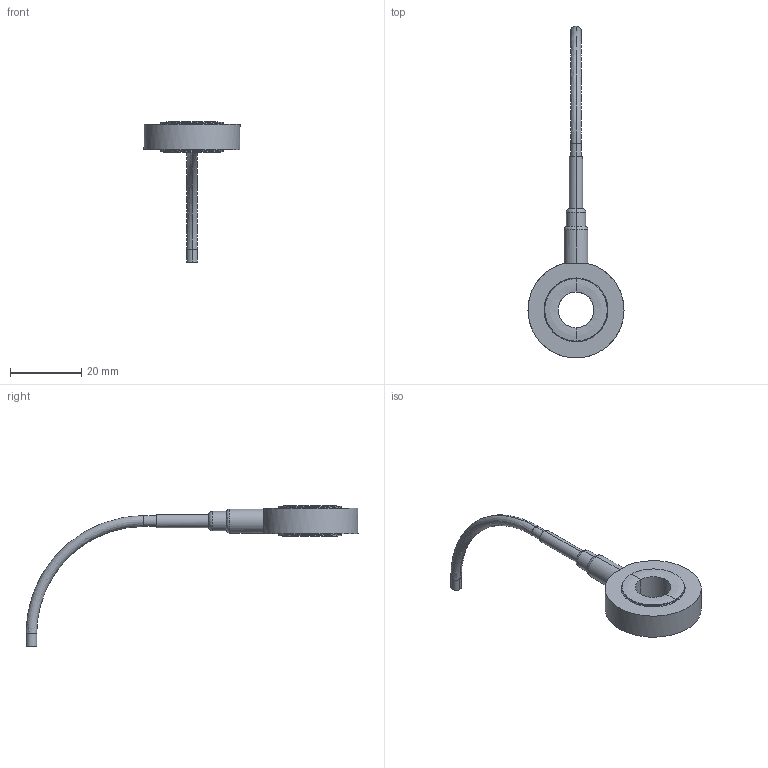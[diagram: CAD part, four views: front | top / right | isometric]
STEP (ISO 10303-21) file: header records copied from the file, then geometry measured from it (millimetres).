
FILE_DESCRIPTION (( 'STEP AP214' ), '1' );
FILE_NAME ('Soemer-SM71-M10-60kN.STEP', '2023-09-26T13:21:10', ( '' ), ( '' ), 'SwSTEP 2.0', 'SolidWorks 2019', '' );
FILE_SCHEMA (( 'AUTOMOTIVE_DESIGN' ));
Length unit declared in the file: millimetre
Products named in the file (2): Soemer-SM71-M10-60kN
Bounding box: 26.9 x 92.99 x 39.25 mm (x, y, z)
Volume: 4739.2 mm3; surface area: 2879.1 mm2
Topology: 1 solids, 1 shells, 39 faces, 80 edges, 44 vertices
Faces by surface type: bspline 31, plane 8
Entity records: 2717 total; most frequent: CARTESIAN_POINT 2064, ORIENTED_EDGE 160, EDGE_CURVE 80, B_SPLINE_CURVE_WITH_KNOTS 56, VERTEX_POINT 44, DIRECTION 44, EDGE_LOOP 42, ADVANCED_FACE 39
